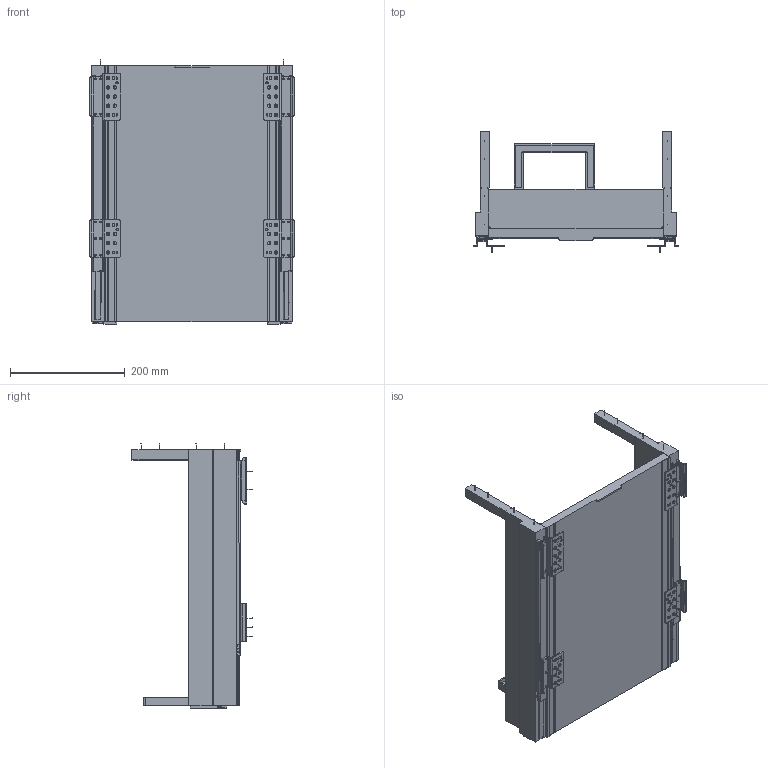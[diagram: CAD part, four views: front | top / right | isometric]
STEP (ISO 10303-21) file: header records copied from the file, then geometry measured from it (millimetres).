
FILE_DESCRIPTION((''),'2;1');
FILE_NAME('80_61_001','2024-08-30T09:46:40',('bru'),(''),'CREO PARAMETRIC BY PTC INC, 2022024','CREO PARAMETRIC BY PTC INC, 2022024','');
FILE_SCHEMA(('AUTOMOTIVE_DESIGN { 1 0 10303 214 1 1 1 1 }'));
Length unit declared in the file: millimetre
Products named in the file (1): 80_61_001
Bounding box: 356.5 x 211.06 x 461.2 mm (x, y, z)
Volume: 4110724.9 mm3; surface area: 721721 mm2
Topology: 14 solids, 14 shells, 1301 faces, 3584 edges, 2364 vertices
Faces by surface type: plane 644, cylinder 455, extrusion 90, torus 80, sphere 20, bspline 12
Entity records: 45395 total; most frequent: CARTESIAN_POINT 11432, ORIENTED_EDGE 7154, DIRECTION 6822, EDGE_CURVE 3577, VERTEX_POINT 2358, VECTOR 2277, AXIS2_PLACEMENT_3D 2271, LINE 2187
